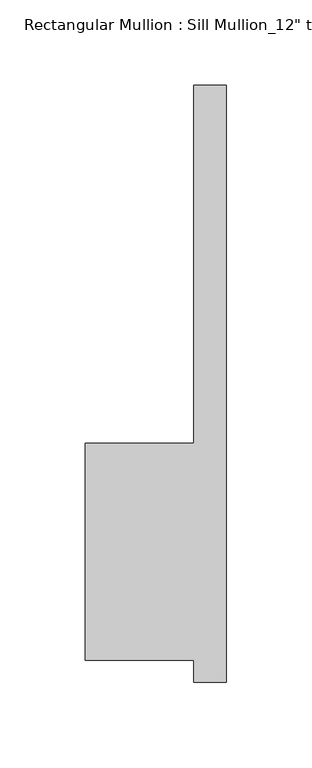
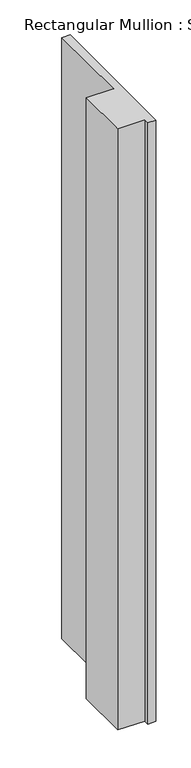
"""IFC4 building model written with IfcOpenShell, lengths in millimetres: member geometry."""

from ifc_helpers import new_model, si_unit, frame, origin, place, context, project, spatial, polyline, outline, extrude, source, transform, mapped, element, save


def member_6bb866c0(model_context):
    return source(origin(), model_context, "Body", "SweptSolid", [
        extrude(outline(polyline([(-82.55, 50.8), (-19.05, 50.8), (-19.05, 260.35), (0.0, 260.35), (0.0, -88.9), (-19.05, -88.9), (-19.05, -76.2), (-82.55, -76.2), (-82.55, 50.8)])), frame((0.0, 0.0, -1491.6598848), z_axis=(0.0, 0.0, 1.0), x_axis=(1.0, 0.0, 0.0)), (0.0, 0.0, 1.0), 1491.6598848),
    ])


if __name__ == "__main__":
    model = new_model("IFC4")
    model_context = context("Model", 3, world=origin())
    ifc_project = project(units=[si_unit("LENGTHUNIT", "METRE", prefix="MILLI")], contexts=[model_context])
    site = spatial("IfcSite", under=ifc_project)
    building = spatial("IfcBuilding", under=site)
    placement = place(None, origin())
    member_shape = member_6bb866c0(model_context)
    element("IfcMember", 1, ObjectType="Rectangular Mullion : Sill Mullion_12\" thick wall", at=placement, inside=building, context=model_context, shape_type="MappedRepresentation", body=[
        mapped(member_shape, transform((0.0, 0.0, 0.0), x_axis=(1.0, 0.0, 0.0), y_axis=(0.0, 1.0, 0.0), z_axis=(0.0, 0.0, 1.0))),
    ])
    save(model, "model.ifc")
